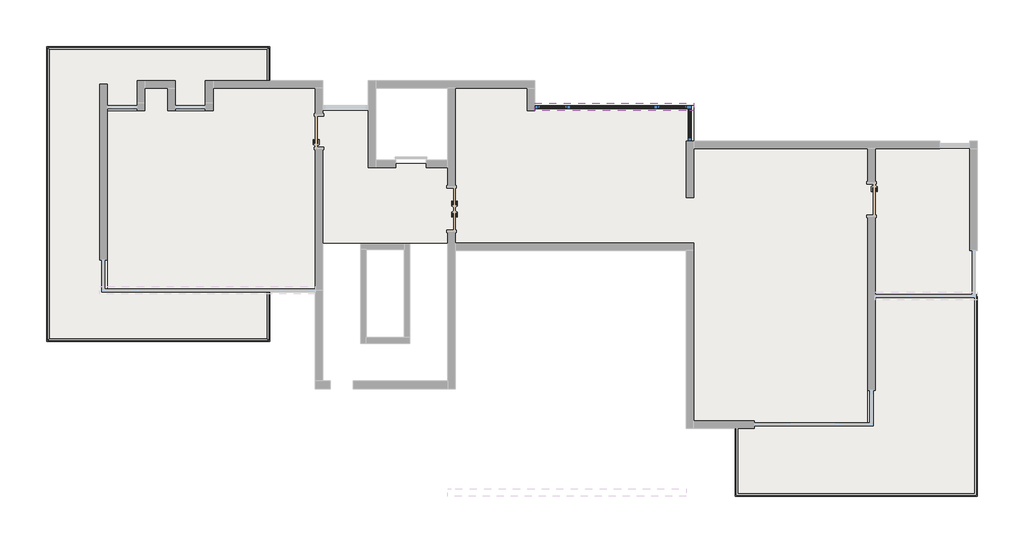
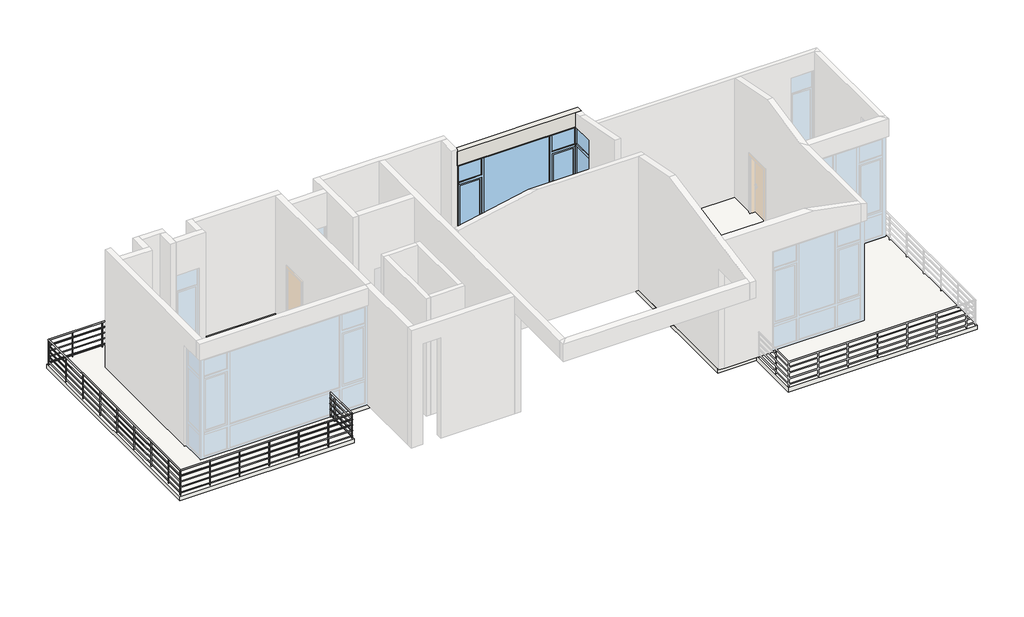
# One storey, part 2 of 3: 2 slabs, 1 railing, 1 wall, 1 window.
"""IFC4 building model written with IfcOpenShell, lengths in millimetres."""

from ifc_helpers import new_model, si_unit, point, frame, frame_2d, origin, place, context, project, spatial, circle_curve, ellipse_curve, trimmed, segment, composite_curve, outline, extrude, faceted_brep, transform, mapped, element, save
from ifc_brep_helpers import plane_surface, cylinder_surface, advanced_brep
from components import zjc_41_09_36_8a23be3f

model = new_model("IFC4")

# Units and contexts
model_context = context("Model", 3, world=origin())
ifc_project = project(units=[si_unit("LENGTHUNIT", "METRE", prefix="MILLI")], contexts=[model_context])

# Site, building, storey
site = spatial("IfcSite", under=ifc_project)
building = spatial("IfcBuilding", under=site)
storey = spatial("IfcBuildingStorey", under=building, Name="二层", Elevation=3900.0)

# Railing
placement = place(None, origin())
element("IfcRailing", 1, ObjectType="900mm 圆管", at=placement, inside=storey, context=model_context, shape_type="SolidModel", body=[
    advanced_brep(
    [(-3620.9475695, 1078.5827769, 4780.0), (-3660.9475695, 1078.5827769, 4780.0), (-3620.9475695, 1948.5827769, 4780.0), (-3660.9475695, 1908.5827769, 4780.0), (-9460.9475695, 1948.5827769, 4780.0), (-9420.9475695, 1908.5827769, 4780.0), (-9460.9475695, -5791.4172231, 4780.0), (-9420.9475695, -5751.4172231, 4780.0), (-3620.9475695, -5791.4172231, 4780.0), (-3660.9475695, -5751.4172231, 4780.0), (-3620.9475695, -4511.4172231, 4780.0), (-3660.9475695, -4511.4172231, 4780.0)],
    [
        (0, 1, circle_curve(frame((-3640.9475695, 1078.5827769, 4780.0), z_axis=(0.0, -1.0, 0.0), x_axis=(-1.0, 0.0, 0.0)), 20.0)),
        (1, 0, circle_curve(frame((-3640.9475695, 1078.5827769, 4780.0), z_axis=(0.0, -1.0, 0.0), x_axis=(-1.0, 0.0, 0.0)), 20.0)),
        (0, 2),
        (2, 3, ellipse_curve(frame((-3640.9475695, 1928.5827769, 4780.0), z_axis=(0.7071067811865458, -0.7071067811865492, 0.0), x_axis=(-0.7071067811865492, -0.7071067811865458, 0.0)), 28.2842712, 20.0)),
        (3, 1),
        (3, 2, ellipse_curve(frame((-3640.9475695, 1928.5827769, 4780.0), z_axis=(0.7071067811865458, -0.7071067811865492, 0.0), x_axis=(-0.7071067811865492, -0.7071067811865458, 0.0)), 28.2842712, 20.0)),
        (2, 4),
        (4, 5, ellipse_curve(frame((-9440.9475695, 1928.5827769, 4780.0), z_axis=(0.7071067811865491, 0.7071067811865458, 0.0), x_axis=(0.707106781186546, -0.7071067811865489, 0.0)), 28.2842712, 20.0)),
        (5, 3),
        (5, 4, ellipse_curve(frame((-9440.9475695, 1928.5827769, 4780.0), z_axis=(0.7071067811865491, 0.7071067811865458, 0.0), x_axis=(0.707106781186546, -0.7071067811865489, 0.0)), 28.2842712, 20.0)),
        (4, 6),
        (6, 7, ellipse_curve(frame((-9440.9475695, -5771.4172231, 4780.0), z_axis=(-0.7071067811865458, 0.7071067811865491, 0.0), x_axis=(0.7071067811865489, 0.707106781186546, 0.0)), 28.2842712, 20.0)),
        (7, 5),
        (7, 6, ellipse_curve(frame((-9440.9475695, -5771.4172231, 4780.0), z_axis=(-0.7071067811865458, 0.7071067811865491, 0.0), x_axis=(0.7071067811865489, 0.707106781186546, 0.0)), 28.2842712, 20.0)),
        (6, 8),
        (8, 9, ellipse_curve(frame((-3640.9475695, -5771.4172231, 4780.0), z_axis=(-0.7071067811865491, -0.7071067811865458, 0.0), x_axis=(-0.707106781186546, 0.7071067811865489, 0.0)), 28.2842712, 20.0)),
        (9, 7),
        (9, 8, ellipse_curve(frame((-3640.9475695, -5771.4172231, 4780.0), z_axis=(-0.7071067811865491, -0.7071067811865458, 0.0), x_axis=(-0.707106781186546, 0.7071067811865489, 0.0)), 28.2842712, 20.0)),
        (10, 11, circle_curve(frame((-3640.9475695, -4511.4172231, 4780.0), z_axis=(0.0, 1.0, 0.0), x_axis=(-1.0, 0.0, 0.0)), 20.0)),
        (11, 10, circle_curve(frame((-3640.9475695, -4511.4172231, 4780.0), z_axis=(0.0, 1.0, 0.0), x_axis=(-1.0, 0.0, 0.0)), 20.0)),
        (8, 10),
        (11, 9),
    ],
    [
        plane_surface(frame((-3640.9475695, 1078.5827769, 4800.0), z_axis=(0.0, -1.0, 0.0), x_axis=(0.0, 0.0, 1.0))),
        cylinder_surface(frame((-3640.9475695, 1078.5827769, 4780.0), z_axis=(0.0, -1.0, 0.0), x_axis=(-1.0, 0.0, 0.0)), 20.0),
        cylinder_surface(frame((-3640.9475695, 1928.5827769, 4780.0), z_axis=(1.0, 0.0, 0.0), x_axis=(0.0, -1.0, 0.0)), 20.0),
        cylinder_surface(frame((-9440.9475695, 1928.5827769, 4780.0), z_axis=(0.0, 1.0, 0.0), x_axis=(1.0, 0.0, 0.0)), 20.0),
        cylinder_surface(frame((-9440.9475695, -5771.4172231, 4780.0), z_axis=(-1.0, 0.0, 0.0), x_axis=(0.0, 1.0, 0.0)), 20.0),
        plane_surface(frame((-3640.9475695, -4511.4172231, 4800.0), z_axis=(0.0, 1.0, 0.0), x_axis=(0.0, 0.0, 1.0))),
        cylinder_surface(frame((-3640.9475695, -5771.4172231, 4780.0), z_axis=(0.0, -1.0, 0.0), x_axis=(-1.0, 0.0, 0.0)), 20.0),
    ],
    [
        (0, [[1, 2]]),
        (1, [[-1, 3, 4, 5]]),
        (1, [[-2, -5, 6, -3]]),
        (2, [[-4, 7, 8, 9]]),
        (2, [[-6, -9, 10, -7]]),
        (3, [[-8, 11, 12, 13]]),
        (3, [[-10, -13, 14, -11]]),
        (4, [[-12, 15, 16, 17]]),
        (4, [[-14, -17, 18, -15]]),
        (5, [[19, 20]]),
        (6, [[-16, 21, -20, 22]]),
        (6, [[-18, -22, -19, -21]]),
    ],
),
    advanced_brep(
    [(-3655.9475695, 1078.5827769, 4585.0), (-3625.9475695, 1078.5827769, 4585.0), (-3655.9475695, 1913.5827769, 4585.0), (-3625.9475695, 1943.5827769, 4585.0), (-9425.9475695, 1913.5827769, 4585.0), (-9455.9475695, 1943.5827769, 4585.0), (-9425.9475695, -5756.4172231, 4585.0), (-9455.9475695, -5786.4172231, 4585.0), (-3655.9475695, -5756.4172231, 4585.0), (-3625.9475695, -5786.4172231, 4585.0), (-3655.9475695, -4511.4172231, 4585.0), (-3625.9475695, -4511.4172231, 4585.0)],
    [
        (0, 1, circle_curve(frame((-3640.9475695, 1078.5827769, 4585.0), z_axis=(0.0, -1.0, 0.0), x_axis=(1.0, 0.0, 0.0)), 15.0)),
        (1, 0, circle_curve(frame((-3640.9475695, 1078.5827769, 4585.0), z_axis=(0.0, -1.0, 0.0), x_axis=(1.0, 0.0, 0.0)), 15.0)),
        (0, 2),
        (2, 3, ellipse_curve(frame((-3640.9475695, 1928.5827769, 4585.0), z_axis=(0.7071067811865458, -0.7071067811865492, 0.0), x_axis=(-0.7071067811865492, -0.7071067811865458, 0.0)), 21.2132034, 15.0)),
        (3, 1),
        (3, 2, ellipse_curve(frame((-3640.9475695, 1928.5827769, 4585.0), z_axis=(0.7071067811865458, -0.7071067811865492, 0.0), x_axis=(-0.7071067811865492, -0.7071067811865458, 0.0)), 21.2132034, 15.0)),
        (2, 4),
        (4, 5, ellipse_curve(frame((-9440.9475695, 1928.5827769, 4585.0), z_axis=(0.7071067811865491, 0.7071067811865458, 0.0), x_axis=(0.707106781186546, -0.7071067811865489, 0.0)), 21.2132034, 15.0)),
        (5, 3),
        (5, 4, ellipse_curve(frame((-9440.9475695, 1928.5827769, 4585.0), z_axis=(0.7071067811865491, 0.7071067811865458, 0.0), x_axis=(0.707106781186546, -0.7071067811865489, 0.0)), 21.2132034, 15.0)),
        (4, 6),
        (6, 7, ellipse_curve(frame((-9440.9475695, -5771.4172231, 4585.0), z_axis=(-0.7071067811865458, 0.7071067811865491, 0.0), x_axis=(0.7071067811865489, 0.707106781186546, 0.0)), 21.2132034, 15.0)),
        (7, 5),
        (7, 6, ellipse_curve(frame((-9440.9475695, -5771.4172231, 4585.0), z_axis=(-0.7071067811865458, 0.7071067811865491, 0.0), x_axis=(0.7071067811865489, 0.707106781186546, 0.0)), 21.2132034, 15.0)),
        (6, 8),
        (8, 9, ellipse_curve(frame((-3640.9475695, -5771.4172231, 4585.0), z_axis=(-0.7071067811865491, -0.7071067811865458, 0.0), x_axis=(-0.707106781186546, 0.7071067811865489, 0.0)), 21.2132034, 15.0)),
        (9, 7),
        (9, 8, ellipse_curve(frame((-3640.9475695, -5771.4172231, 4585.0), z_axis=(-0.7071067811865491, -0.7071067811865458, 0.0), x_axis=(-0.707106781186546, 0.7071067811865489, 0.0)), 21.2132034, 15.0)),
        (10, 11, circle_curve(frame((-3640.9475695, -4511.4172231, 4585.0), z_axis=(0.0, 1.0, 0.0), x_axis=(1.0, 0.0, 0.0)), 15.0)),
        (11, 10, circle_curve(frame((-3640.9475695, -4511.4172231, 4585.0), z_axis=(0.0, 1.0, 0.0), x_axis=(1.0, 0.0, 0.0)), 15.0)),
        (8, 10),
        (11, 9),
    ],
    [
        plane_surface(frame((-3640.9475695, 1078.5827769, 4600.0), z_axis=(0.0, -1.0, 0.0), x_axis=(0.0, 0.0, 1.0))),
        cylinder_surface(frame((-3640.9475695, 1078.5827769, 4585.0), z_axis=(0.0, -1.0, 0.0), x_axis=(1.0, 0.0, 0.0)), 15.0),
        cylinder_surface(frame((-3640.9475695, 1928.5827769, 4585.0), z_axis=(1.0, 0.0, 0.0), x_axis=(0.0, 1.0, 0.0)), 15.0),
        cylinder_surface(frame((-9440.9475695, 1928.5827769, 4585.0), z_axis=(0.0, 1.0, 0.0), x_axis=(-1.0, 0.0, 0.0)), 15.0),
        cylinder_surface(frame((-9440.9475695, -5771.4172231, 4585.0), z_axis=(-1.0, 0.0, 0.0), x_axis=(0.0, -1.0, 0.0)), 15.0),
        plane_surface(frame((-3640.9475695, -4511.4172231, 4600.0), z_axis=(0.0, 1.0, 0.0), x_axis=(0.0, 0.0, 1.0))),
        cylinder_surface(frame((-3640.9475695, -5771.4172231, 4585.0), z_axis=(0.0, -1.0, 0.0), x_axis=(1.0, 0.0, 0.0)), 15.0),
    ],
    [
        (0, [[1, 2]]),
        (1, [[-1, 3, 4, 5]]),
        (1, [[-2, -5, 6, -3]]),
        (2, [[-4, 7, 8, 9]]),
        (2, [[-6, -9, 10, -7]]),
        (3, [[-8, 11, 12, 13]]),
        (3, [[-10, -13, 14, -11]]),
        (4, [[-12, 15, 16, 17]]),
        (4, [[-14, -17, 18, -15]]),
        (5, [[19, 20]]),
        (6, [[-16, 21, -20, 22]]),
        (6, [[-18, -22, -19, -21]]),
    ],
),
    advanced_brep(
    [(-3655.9475695, 1078.5827769, 4385.0), (-3625.9475695, 1078.5827769, 4385.0), (-3655.9475695, 1913.5827769, 4385.0), (-3625.9475695, 1943.5827769, 4385.0), (-9425.9475695, 1913.5827769, 4385.0), (-9455.9475695, 1943.5827769, 4385.0), (-9425.9475695, -5756.4172231, 4385.0), (-9455.9475695, -5786.4172231, 4385.0), (-3655.9475695, -5756.4172231, 4385.0), (-3625.9475695, -5786.4172231, 4385.0), (-3655.9475695, -4511.4172231, 4385.0), (-3625.9475695, -4511.4172231, 4385.0)],
    [
        (0, 1, circle_curve(frame((-3640.9475695, 1078.5827769, 4385.0), z_axis=(0.0, -1.0, 0.0), x_axis=(1.0, 0.0, 0.0)), 15.0)),
        (1, 0, circle_curve(frame((-3640.9475695, 1078.5827769, 4385.0), z_axis=(0.0, -1.0, 0.0), x_axis=(1.0, 0.0, 0.0)), 15.0)),
        (0, 2),
        (2, 3, ellipse_curve(frame((-3640.9475695, 1928.5827769, 4385.0), z_axis=(0.7071067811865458, -0.7071067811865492, 0.0), x_axis=(-0.7071067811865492, -0.7071067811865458, 0.0)), 21.2132034, 15.0)),
        (3, 1),
        (3, 2, ellipse_curve(frame((-3640.9475695, 1928.5827769, 4385.0), z_axis=(0.7071067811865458, -0.7071067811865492, 0.0), x_axis=(-0.7071067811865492, -0.7071067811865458, 0.0)), 21.2132034, 15.0)),
        (2, 4),
        (4, 5, ellipse_curve(frame((-9440.9475695, 1928.5827769, 4385.0), z_axis=(0.7071067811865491, 0.7071067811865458, 0.0), x_axis=(0.707106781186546, -0.7071067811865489, 0.0)), 21.2132034, 15.0)),
        (5, 3),
        (5, 4, ellipse_curve(frame((-9440.9475695, 1928.5827769, 4385.0), z_axis=(0.7071067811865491, 0.7071067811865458, 0.0), x_axis=(0.707106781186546, -0.7071067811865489, 0.0)), 21.2132034, 15.0)),
        (4, 6),
        (6, 7, ellipse_curve(frame((-9440.9475695, -5771.4172231, 4385.0), z_axis=(-0.7071067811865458, 0.7071067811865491, 0.0), x_axis=(0.7071067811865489, 0.707106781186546, 0.0)), 21.2132034, 15.0)),
        (7, 5),
        (7, 6, ellipse_curve(frame((-9440.9475695, -5771.4172231, 4385.0), z_axis=(-0.7071067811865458, 0.7071067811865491, 0.0), x_axis=(0.7071067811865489, 0.707106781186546, 0.0)), 21.2132034, 15.0)),
        (6, 8),
        (8, 9, ellipse_curve(frame((-3640.9475695, -5771.4172231, 4385.0), z_axis=(-0.7071067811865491, -0.7071067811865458, 0.0), x_axis=(-0.707106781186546, 0.7071067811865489, 0.0)), 21.2132034, 15.0)),
        (9, 7),
        (9, 8, ellipse_curve(frame((-3640.9475695, -5771.4172231, 4385.0), z_axis=(-0.7071067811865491, -0.7071067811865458, 0.0), x_axis=(-0.707106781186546, 0.7071067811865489, 0.0)), 21.2132034, 15.0)),
        (10, 11, circle_curve(frame((-3640.9475695, -4511.4172231, 4385.0), z_axis=(0.0, 1.0, 0.0), x_axis=(1.0, 0.0, 0.0)), 15.0)),
        (11, 10, circle_curve(frame((-3640.9475695, -4511.4172231, 4385.0), z_axis=(0.0, 1.0, 0.0), x_axis=(1.0, 0.0, 0.0)), 15.0)),
        (8, 10),
        (11, 9),
    ],
    [
        plane_surface(frame((-3640.9475695, 1078.5827769, 4400.0), z_axis=(0.0, -1.0, 0.0), x_axis=(0.0, 0.0, 1.0))),
        cylinder_surface(frame((-3640.9475695, 1078.5827769, 4385.0), z_axis=(0.0, -1.0, 0.0), x_axis=(1.0, 0.0, 0.0)), 15.0),
        cylinder_surface(frame((-3640.9475695, 1928.5827769, 4385.0), z_axis=(1.0, 0.0, 0.0), x_axis=(0.0, 1.0, 0.0)), 15.0),
        cylinder_surface(frame((-9440.9475695, 1928.5827769, 4385.0), z_axis=(0.0, 1.0, 0.0), x_axis=(-1.0, 0.0, 0.0)), 15.0),
        cylinder_surface(frame((-9440.9475695, -5771.4172231, 4385.0), z_axis=(-1.0, 0.0, 0.0), x_axis=(0.0, -1.0, 0.0)), 15.0),
        plane_surface(frame((-3640.9475695, -4511.4172231, 4400.0), z_axis=(0.0, 1.0, 0.0), x_axis=(0.0, 0.0, 1.0))),
        cylinder_surface(frame((-3640.9475695, -5771.4172231, 4385.0), z_axis=(0.0, -1.0, 0.0), x_axis=(1.0, 0.0, 0.0)), 15.0),
    ],
    [
        (0, [[1, 2]]),
        (1, [[-1, 3, 4, 5]]),
        (1, [[-2, -5, 6, -3]]),
        (2, [[-4, 7, 8, 9]]),
        (2, [[-6, -9, 10, -7]]),
        (3, [[-8, 11, 12, 13]]),
        (3, [[-10, -13, 14, -11]]),
        (4, [[-12, 15, 16, 17]]),
        (4, [[-14, -17, 18, -15]]),
        (5, [[19, 20]]),
        (6, [[-16, 21, -20, 22]]),
        (6, [[-18, -22, -19, -21]]),
    ],
),
    advanced_brep(
    [(-3655.9475695, 1078.5827769, 4185.0), (-3625.9475695, 1078.5827769, 4185.0), (-3655.9475695, 1913.5827769, 4185.0), (-3625.9475695, 1943.5827769, 4185.0), (-9425.9475695, 1913.5827769, 4185.0), (-9455.9475695, 1943.5827769, 4185.0), (-9425.9475695, -5756.4172231, 4185.0), (-9455.9475695, -5786.4172231, 4185.0), (-3655.9475695, -5756.4172231, 4185.0), (-3625.9475695, -5786.4172231, 4185.0), (-3655.9475695, -4511.4172231, 4185.0), (-3625.9475695, -4511.4172231, 4185.0)],
    [
        (0, 1, circle_curve(frame((-3640.9475695, 1078.5827769, 4185.0), z_axis=(0.0, -1.0, 0.0), x_axis=(1.0, 0.0, 0.0)), 15.0)),
        (1, 0, circle_curve(frame((-3640.9475695, 1078.5827769, 4185.0), z_axis=(0.0, -1.0, 0.0), x_axis=(1.0, 0.0, 0.0)), 15.0)),
        (0, 2),
        (2, 3, ellipse_curve(frame((-3640.9475695, 1928.5827769, 4185.0), z_axis=(0.7071067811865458, -0.7071067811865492, 0.0), x_axis=(-0.7071067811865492, -0.7071067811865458, 0.0)), 21.2132034, 15.0)),
        (3, 1),
        (3, 2, ellipse_curve(frame((-3640.9475695, 1928.5827769, 4185.0), z_axis=(0.7071067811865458, -0.7071067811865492, 0.0), x_axis=(-0.7071067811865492, -0.7071067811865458, 0.0)), 21.2132034, 15.0)),
        (2, 4),
        (4, 5, ellipse_curve(frame((-9440.9475695, 1928.5827769, 4185.0), z_axis=(0.7071067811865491, 0.7071067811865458, 0.0), x_axis=(0.707106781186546, -0.7071067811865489, 0.0)), 21.2132034, 15.0)),
        (5, 3),
        (5, 4, ellipse_curve(frame((-9440.9475695, 1928.5827769, 4185.0), z_axis=(0.7071067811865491, 0.7071067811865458, 0.0), x_axis=(0.707106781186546, -0.7071067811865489, 0.0)), 21.2132034, 15.0)),
        (4, 6),
        (6, 7, ellipse_curve(frame((-9440.9475695, -5771.4172231, 4185.0), z_axis=(-0.7071067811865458, 0.7071067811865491, 0.0), x_axis=(0.7071067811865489, 0.707106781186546, 0.0)), 21.2132034, 15.0)),
        (7, 5),
        (7, 6, ellipse_curve(frame((-9440.9475695, -5771.4172231, 4185.0), z_axis=(-0.7071067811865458, 0.7071067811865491, 0.0), x_axis=(0.7071067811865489, 0.707106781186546, 0.0)), 21.2132034, 15.0)),
        (6, 8),
        (8, 9, ellipse_curve(frame((-3640.9475695, -5771.4172231, 4185.0), z_axis=(-0.7071067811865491, -0.7071067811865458, 0.0), x_axis=(-0.707106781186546, 0.7071067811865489, 0.0)), 21.2132034, 15.0)),
        (9, 7),
        (9, 8, ellipse_curve(frame((-3640.9475695, -5771.4172231, 4185.0), z_axis=(-0.7071067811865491, -0.7071067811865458, 0.0), x_axis=(-0.707106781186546, 0.7071067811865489, 0.0)), 21.2132034, 15.0)),
        (10, 11, circle_curve(frame((-3640.9475695, -4511.4172231, 4185.0), z_axis=(0.0, 1.0, 0.0), x_axis=(1.0, 0.0, 0.0)), 15.0)),
        (11, 10, circle_curve(frame((-3640.9475695, -4511.4172231, 4185.0), z_axis=(0.0, 1.0, 0.0), x_axis=(1.0, 0.0, 0.0)), 15.0)),
        (8, 10),
        (11, 9),
    ],
    [
        plane_surface(frame((-3640.9475695, 1078.5827769, 4200.0), z_axis=(0.0, -1.0, 0.0), x_axis=(0.0, 0.0, 1.0))),
        cylinder_surface(frame((-3640.9475695, 1078.5827769, 4185.0), z_axis=(0.0, -1.0, 0.0), x_axis=(1.0, 0.0, 0.0)), 15.0),
        cylinder_surface(frame((-3640.9475695, 1928.5827769, 4185.0), z_axis=(1.0, 0.0, 0.0), x_axis=(0.0, 1.0, 0.0)), 15.0),
        cylinder_surface(frame((-9440.9475695, 1928.5827769, 4185.0), z_axis=(0.0, 1.0, 0.0), x_axis=(-1.0, 0.0, 0.0)), 15.0),
        cylinder_surface(frame((-9440.9475695, -5771.4172231, 4185.0), z_axis=(-1.0, 0.0, 0.0), x_axis=(0.0, -1.0, 0.0)), 15.0),
        plane_surface(frame((-3640.9475695, -4511.4172231, 4200.0), z_axis=(0.0, 1.0, 0.0), x_axis=(0.0, 0.0, 1.0))),
        cylinder_surface(frame((-3640.9475695, -5771.4172231, 4185.0), z_axis=(0.0, -1.0, 0.0), x_axis=(1.0, 0.0, 0.0)), 15.0),
    ],
    [
        (0, [[1, 2]]),
        (1, [[-1, 3, 4, 5]]),
        (1, [[-2, -5, 6, -3]]),
        (2, [[-4, 7, 8, 9]]),
        (2, [[-6, -9, 10, -7]]),
        (3, [[-8, 11, 12, 13]]),
        (3, [[-10, -13, 14, -11]]),
        (4, [[-12, 15, 16, 17]]),
        (4, [[-14, -17, 18, -15]]),
        (5, [[19, 20]]),
        (6, [[-16, 21, -20, 22]]),
        (6, [[-18, -22, -19, -21]]),
    ],
),
    advanced_brep(
    [(-3655.9475695, 1078.5827769, 3985.0), (-3625.9475695, 1078.5827769, 3985.0), (-3655.9475695, 1913.5827769, 3985.0), (-3625.9475695, 1943.5827769, 3985.0), (-9425.9475695, 1913.5827769, 3985.0), (-9455.9475695, 1943.5827769, 3985.0), (-9425.9475695, -5756.4172231, 3985.0), (-9455.9475695, -5786.4172231, 3985.0), (-3655.9475695, -5756.4172231, 3985.0), (-3625.9475695, -5786.4172231, 3985.0), (-3655.9475695, -4511.4172231, 3985.0), (-3625.9475695, -4511.4172231, 3985.0)],
    [
        (0, 1, circle_curve(frame((-3640.9475695, 1078.5827769, 3985.0), z_axis=(0.0, -1.0, 0.0), x_axis=(1.0, 0.0, 0.0)), 15.0)),
        (1, 0, circle_curve(frame((-3640.9475695, 1078.5827769, 3985.0), z_axis=(0.0, -1.0, 0.0), x_axis=(1.0, 0.0, 0.0)), 15.0)),
        (0, 2),
        (2, 3, ellipse_curve(frame((-3640.9475695, 1928.5827769, 3985.0), z_axis=(0.7071067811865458, -0.7071067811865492, 0.0), x_axis=(-0.7071067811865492, -0.7071067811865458, 0.0)), 21.2132034, 15.0)),
        (3, 1),
        (3, 2, ellipse_curve(frame((-3640.9475695, 1928.5827769, 3985.0), z_axis=(0.7071067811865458, -0.7071067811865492, 0.0), x_axis=(-0.7071067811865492, -0.7071067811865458, 0.0)), 21.2132034, 15.0)),
        (2, 4),
        (4, 5, ellipse_curve(frame((-9440.9475695, 1928.5827769, 3985.0), z_axis=(0.7071067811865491, 0.7071067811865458, 0.0), x_axis=(0.707106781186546, -0.7071067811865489, 0.0)), 21.2132034, 15.0)),
        (5, 3),
        (5, 4, ellipse_curve(frame((-9440.9475695, 1928.5827769, 3985.0), z_axis=(0.7071067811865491, 0.7071067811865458, 0.0), x_axis=(0.707106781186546, -0.7071067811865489, 0.0)), 21.2132034, 15.0)),
        (4, 6),
        (6, 7, ellipse_curve(frame((-9440.9475695, -5771.4172231, 3985.0), z_axis=(-0.7071067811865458, 0.7071067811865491, 0.0), x_axis=(0.7071067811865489, 0.707106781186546, 0.0)), 21.2132034, 15.0)),
        (7, 5),
        (7, 6, ellipse_curve(frame((-9440.9475695, -5771.4172231, 3985.0), z_axis=(-0.7071067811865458, 0.7071067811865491, 0.0), x_axis=(0.7071067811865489, 0.707106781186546, 0.0)), 21.2132034, 15.0)),
        (6, 8),
        (8, 9, ellipse_curve(frame((-3640.9475695, -5771.4172231, 3985.0), z_axis=(-0.7071067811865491, -0.7071067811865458, 0.0), x_axis=(-0.707106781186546, 0.7071067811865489, 0.0)), 21.2132034, 15.0)),
        (9, 7),
        (9, 8, ellipse_curve(frame((-3640.9475695, -5771.4172231, 3985.0), z_axis=(-0.7071067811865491, -0.7071067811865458, 0.0), x_axis=(-0.707106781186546, 0.7071067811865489, 0.0)), 21.2132034, 15.0)),
        (10, 11, circle_curve(frame((-3640.9475695, -4511.4172231, 3985.0), z_axis=(0.0, 1.0, 0.0), x_axis=(1.0, 0.0, 0.0)), 15.0)),
        (11, 10, circle_curve(frame((-3640.9475695, -4511.4172231, 3985.0), z_axis=(0.0, 1.0, 0.0), x_axis=(1.0, 0.0, 0.0)), 15.0)),
        (8, 10),
        (11, 9),
    ],
    [
        plane_surface(frame((-3640.9475695, 1078.5827769, 4000.0), z_axis=(0.0, -1.0, 0.0), x_axis=(0.0, 0.0, 1.0))),
        cylinder_surface(frame((-3640.9475695, 1078.5827769, 3985.0), z_axis=(0.0, -1.0, 0.0), x_axis=(1.0, 0.0, 0.0)), 15.0),
        cylinder_surface(frame((-3640.9475695, 1928.5827769, 3985.0), z_axis=(1.0, 0.0, 0.0), x_axis=(0.0, 1.0, 0.0)), 15.0),
        cylinder_surface(frame((-9440.9475695, 1928.5827769, 3985.0), z_axis=(0.0, 1.0, 0.0), x_axis=(-1.0, 0.0, 0.0)), 15.0),
        cylinder_surface(frame((-9440.9475695, -5771.4172231, 3985.0), z_axis=(-1.0, 0.0, 0.0), x_axis=(0.0, -1.0, 0.0)), 15.0),
        plane_surface(frame((-3640.9475695, -4511.4172231, 4000.0), z_axis=(0.0, 1.0, 0.0), x_axis=(0.0, 0.0, 1.0))),
        cylinder_surface(frame((-3640.9475695, -5771.4172231, 3985.0), z_axis=(0.0, -1.0, 0.0), x_axis=(1.0, 0.0, 0.0)), 15.0),
    ],
    [
        (0, [[1, 2]]),
        (1, [[-1, 3, 4, 5]]),
        (1, [[-2, -5, 6, -3]]),
        (2, [[-4, 7, 8, 9]]),
        (2, [[-6, -9, 10, -7]]),
        (3, [[-8, 11, 12, 13]]),
        (3, [[-10, -13, 14, -11]]),
        (4, [[-12, 15, 16, 17]]),
        (4, [[-14, -17, 18, -15]]),
        (5, [[19, 20]]),
        (6, [[-16, 21, -20, 22]]),
        (6, [[-18, -22, -19, -21]]),
    ],
),
    extrude(outline(composite_curve([segment(trimmed(circle_curve(frame_2d((-3640.9475695, -4771.4172231)), 12.5), [point((-3653.4475695, -4771.4172231))], [point((-3628.4475695, -4771.4172231))], False, "CARTESIAN"), True, "CONTINUOUS"), segment(trimmed(circle_curve(frame_2d((-3640.9475695, -4771.4172231)), 12.5), [point((-3628.4475695, -4771.4172231))], [point((-3653.4475695, -4771.4172231))], False, "CARTESIAN"), True, "CONTINUOUS")], self_intersect=False)), frame((0.0, 0.0, 3900.0), z_axis=(0.0, 0.0, 1.0), x_axis=(1.0, 0.0, 0.0)), (0.0, 0.0, 1.0), 860.0),
    extrude(outline(composite_curve([segment(trimmed(circle_curve(frame_2d((-4440.9475695, -5771.4172231)), 12.5), [point((-4440.9475695, -5758.9172231))], [point((-4440.9475695, -5783.9172231))], False, "CARTESIAN"), True, "CONTINUOUS"), segment(trimmed(circle_curve(frame_2d((-4440.9475695, -5771.4172231)), 12.5), [point((-4440.9475695, -5783.9172231))], [point((-4440.9475695, -5758.9172231))], False, "CARTESIAN"), True, "CONTINUOUS")], self_intersect=False)), frame((0.0, 0.0, 3900.0), z_axis=(0.0, 0.0, 1.0), x_axis=(1.0, 0.0, 0.0)), (0.0, 0.0, 1.0), 860.0),
    extrude(outline(composite_curve([segment(trimmed(circle_curve(frame_2d((-5440.9475695, -5771.4172231)), 12.5), [point((-5440.9475695, -5758.9172231))], [point((-5440.9475695, -5783.9172231))], False, "CARTESIAN"), True, "CONTINUOUS"), segment(trimmed(circle_curve(frame_2d((-5440.9475695, -5771.4172231)), 12.5), [point((-5440.9475695, -5783.9172231))], [point((-5440.9475695, -5758.9172231))], False, "CARTESIAN"), True, "CONTINUOUS")], self_intersect=False)), frame((0.0, 0.0, 3900.0), z_axis=(0.0, 0.0, 1.0), x_axis=(1.0, 0.0, 0.0)), (0.0, 0.0, 1.0), 860.0),
    extrude(outline(composite_curve([segment(trimmed(circle_curve(frame_2d((-6440.9475695, -5771.4172231)), 12.5), [point((-6440.9475695, -5758.9172231))], [point((-6440.9475695, -5783.9172231))], False, "CARTESIAN"), True, "CONTINUOUS"), segment(trimmed(circle_curve(frame_2d((-6440.9475695, -5771.4172231)), 12.5), [point((-6440.9475695, -5783.9172231))], [point((-6440.9475695, -5758.9172231))], False, "CARTESIAN"), True, "CONTINUOUS")], self_intersect=False)), frame((0.0, 0.0, 3900.0), z_axis=(0.0, 0.0, 1.0), x_axis=(1.0, 0.0, 0.0)), (0.0, 0.0, 1.0), 860.0),
    extrude(outline(composite_curve([segment(trimmed(circle_curve(frame_2d((-7440.9475695, -5771.4172231)), 12.5), [point((-7440.9475695, -5758.9172231))], [point((-7440.9475695, -5783.9172231))], False, "CARTESIAN"), True, "CONTINUOUS"), segment(trimmed(circle_curve(frame_2d((-7440.9475695, -5771.4172231)), 12.5), [point((-7440.9475695, -5783.9172231))], [point((-7440.9475695, -5758.9172231))], False, "CARTESIAN"), True, "CONTINUOUS")], self_intersect=False)), frame((0.0, 0.0, 3900.0), z_axis=(0.0, 0.0, 1.0), x_axis=(1.0, 0.0, 0.0)), (0.0, 0.0, 1.0), 860.0),
    extrude(outline(composite_curve([segment(trimmed(circle_curve(frame_2d((-8440.9475695, -5771.4172231)), 12.5), [point((-8440.9475695, -5758.9172231))], [point((-8440.9475695, -5783.9172231))], False, "CARTESIAN"), True, "CONTINUOUS"), segment(trimmed(circle_curve(frame_2d((-8440.9475695, -5771.4172231)), 12.5), [point((-8440.9475695, -5783.9172231))], [point((-8440.9475695, -5758.9172231))], False, "CARTESIAN"), True, "CONTINUOUS")], self_intersect=False)), frame((0.0, 0.0, 3900.0), z_axis=(0.0, 0.0, 1.0), x_axis=(1.0, 0.0, 0.0)), (0.0, 0.0, 1.0), 860.0),
    extrude(outline(composite_curve([segment(trimmed(circle_curve(frame_2d((-9440.9475695, -5071.4172231)), 12.5), [point((-9428.4475695, -5071.4172231))], [point((-9453.4475695, -5071.4172231))], False, "CARTESIAN"), True, "CONTINUOUS"), segment(trimmed(circle_curve(frame_2d((-9440.9475695, -5071.4172231)), 12.5), [point((-9453.4475695, -5071.4172231))], [point((-9428.4475695, -5071.4172231))], False, "CARTESIAN"), True, "CONTINUOUS")], self_intersect=False)), frame((0.0, 0.0, 3900.0), z_axis=(0.0, 0.0, 1.0), x_axis=(1.0, 0.0, 0.0)), (0.0, 0.0, 1.0), 860.0),
    extrude(outline(composite_curve([segment(trimmed(circle_curve(frame_2d((-9440.9475695, -4071.4172231)), 12.5), [point((-9428.4475695, -4071.4172231))], [point((-9453.4475695, -4071.4172231))], False, "CARTESIAN"), True, "CONTINUOUS"), segment(trimmed(circle_curve(frame_2d((-9440.9475695, -4071.4172231)), 12.5), [point((-9453.4475695, -4071.4172231))], [point((-9428.4475695, -4071.4172231))], False, "CARTESIAN"), True, "CONTINUOUS")], self_intersect=False)), frame((0.0, 0.0, 3900.0), z_axis=(0.0, 0.0, 1.0), x_axis=(1.0, 0.0, 0.0)), (0.0, 0.0, 1.0), 860.0),
    extrude(outline(composite_curve([segment(trimmed(circle_curve(frame_2d((-9440.9475695, -3071.4172231)), 12.5), [point((-9428.4475695, -3071.4172231))], [point((-9453.4475695, -3071.4172231))], False, "CARTESIAN"), True, "CONTINUOUS"), segment(trimmed(circle_curve(frame_2d((-9440.9475695, -3071.4172231)), 12.5), [point((-9453.4475695, -3071.4172231))], [point((-9428.4475695, -3071.4172231))], False, "CARTESIAN"), True, "CONTINUOUS")], self_intersect=False)), frame((0.0, 0.0, 3900.0), z_axis=(0.0, 0.0, 1.0), x_axis=(1.0, 0.0, 0.0)), (0.0, 0.0, 1.0), 860.0),
    extrude(outline(composite_curve([segment(trimmed(circle_curve(frame_2d((-9440.9475695, -2071.4172231)), 12.5), [point((-9428.4475695, -2071.4172231))], [point((-9453.4475695, -2071.4172231))], False, "CARTESIAN"), True, "CONTINUOUS"), segment(trimmed(circle_curve(frame_2d((-9440.9475695, -2071.4172231)), 12.5), [point((-9453.4475695, -2071.4172231))], [point((-9428.4475695, -2071.4172231))], False, "CARTESIAN"), True, "CONTINUOUS")], self_intersect=False)), frame((0.0, 0.0, 3900.0), z_axis=(0.0, 0.0, 1.0), x_axis=(1.0, 0.0, 0.0)), (0.0, 0.0, 1.0), 860.0),
    extrude(outline(composite_curve([segment(trimmed(circle_curve(frame_2d((-9440.9475695, -1071.4172231)), 12.5), [point((-9428.4475695, -1071.4172231))], [point((-9453.4475695, -1071.4172231))], False, "CARTESIAN"), True, "CONTINUOUS"), segment(trimmed(circle_curve(frame_2d((-9440.9475695, -1071.4172231)), 12.5), [point((-9453.4475695, -1071.4172231))], [point((-9428.4475695, -1071.4172231))], False, "CARTESIAN"), True, "CONTINUOUS")], self_intersect=False)), frame((0.0, 0.0, 3900.0), z_axis=(0.0, 0.0, 1.0), x_axis=(1.0, 0.0, 0.0)), (0.0, 0.0, 1.0), 860.0),
    extrude(outline(composite_curve([segment(trimmed(circle_curve(frame_2d((-9440.9475695, -71.4172231)), 12.5), [point((-9428.4475695, -71.4172231))], [point((-9453.4475695, -71.4172231))], False, "CARTESIAN"), True, "CONTINUOUS"), segment(trimmed(circle_curve(frame_2d((-9440.9475695, -71.4172231)), 12.5), [point((-9453.4475695, -71.4172231))], [point((-9428.4475695, -71.4172231))], False, "CARTESIAN"), True, "CONTINUOUS")], self_intersect=False)), frame((0.0, 0.0, 3900.0), z_axis=(0.0, 0.0, 1.0), x_axis=(1.0, 0.0, 0.0)), (0.0, 0.0, 1.0), 860.0),
    extrude(outline(composite_curve([segment(trimmed(circle_curve(frame_2d((-9440.9475695, 928.5827769)), 12.5), [point((-9428.4475695, 928.5827769))], [point((-9453.4475695, 928.5827769))], False, "CARTESIAN"), True, "CONTINUOUS"), segment(trimmed(circle_curve(frame_2d((-9440.9475695, 928.5827769)), 12.5), [point((-9453.4475695, 928.5827769))], [point((-9428.4475695, 928.5827769))], False, "CARTESIAN"), True, "CONTINUOUS")], self_intersect=False)), frame((0.0, 0.0, 3900.0), z_axis=(0.0, 0.0, 1.0), x_axis=(1.0, 0.0, 0.0)), (0.0, 0.0, 1.0), 860.0),
    extrude(outline(composite_curve([segment(trimmed(circle_curve(frame_2d((-8640.9475695, 1928.5827769)), 12.5), [point((-8640.9475695, 1916.0827769))], [point((-8640.9475695, 1941.0827769))], False, "CARTESIAN"), True, "CONTINUOUS"), segment(trimmed(circle_curve(frame_2d((-8640.9475695, 1928.5827769)), 12.5), [point((-8640.9475695, 1941.0827769))], [point((-8640.9475695, 1916.0827769))], False, "CARTESIAN"), True, "CONTINUOUS")], self_intersect=False)), frame((0.0, 0.0, 3900.0), z_axis=(0.0, 0.0, 1.0), x_axis=(1.0, 0.0, 0.0)), (0.0, 0.0, 1.0), 860.0),
    extrude(outline(composite_curve([segment(trimmed(circle_curve(frame_2d((-7640.9475695, 1928.5827769)), 12.5), [point((-7640.9475695, 1916.0827769))], [point((-7640.9475695, 1941.0827769))], False, "CARTESIAN"), True, "CONTINUOUS"), segment(trimmed(circle_curve(frame_2d((-7640.9475695, 1928.5827769)), 12.5), [point((-7640.9475695, 1941.0827769))], [point((-7640.9475695, 1916.0827769))], False, "CARTESIAN"), True, "CONTINUOUS")], self_intersect=False)), frame((0.0, 0.0, 3900.0), z_axis=(0.0, 0.0, 1.0), x_axis=(1.0, 0.0, 0.0)), (0.0, 0.0, 1.0), 860.0),
    extrude(outline(composite_curve([segment(trimmed(circle_curve(frame_2d((-6640.9475695, 1928.5827769)), 12.5), [point((-6640.9475695, 1916.0827769))], [point((-6640.9475695, 1941.0827769))], False, "CARTESIAN"), True, "CONTINUOUS"), segment(trimmed(circle_curve(frame_2d((-6640.9475695, 1928.5827769)), 12.5), [point((-6640.9475695, 1941.0827769))], [point((-6640.9475695, 1916.0827769))], False, "CARTESIAN"), True, "CONTINUOUS")], self_intersect=False)), frame((0.0, 0.0, 3900.0), z_axis=(0.0, 0.0, 1.0), x_axis=(1.0, 0.0, 0.0)), (0.0, 0.0, 1.0), 860.0),
    extrude(outline(composite_curve([segment(trimmed(circle_curve(frame_2d((-5640.9475695, 1928.5827769)), 12.5), [point((-5640.9475695, 1916.0827769))], [point((-5640.9475695, 1941.0827769))], False, "CARTESIAN"), True, "CONTINUOUS"), segment(trimmed(circle_curve(frame_2d((-5640.9475695, 1928.5827769)), 12.5), [point((-5640.9475695, 1941.0827769))], [point((-5640.9475695, 1916.0827769))], False, "CARTESIAN"), True, "CONTINUOUS")], self_intersect=False)), frame((0.0, 0.0, 3900.0), z_axis=(0.0, 0.0, 1.0), x_axis=(1.0, 0.0, 0.0)), (0.0, 0.0, 1.0), 860.0),
    extrude(outline(composite_curve([segment(trimmed(circle_curve(frame_2d((-4640.9475695, 1928.5827769)), 12.5), [point((-4640.9475695, 1916.0827769))], [point((-4640.9475695, 1941.0827769))], False, "CARTESIAN"), True, "CONTINUOUS"), segment(trimmed(circle_curve(frame_2d((-4640.9475695, 1928.5827769)), 12.5), [point((-4640.9475695, 1941.0827769))], [point((-4640.9475695, 1916.0827769))], False, "CARTESIAN"), True, "CONTINUOUS")], self_intersect=False)), frame((0.0, 0.0, 3900.0), z_axis=(0.0, 0.0, 1.0), x_axis=(1.0, 0.0, 0.0)), (0.0, 0.0, 1.0), 860.0),
    extrude(outline(composite_curve([segment(trimmed(circle_curve(frame_2d((-3640.9475695, -5771.4172231)), 12.5), [point((-3640.9475695, -5758.9172231))], [point((-3640.9475695, -5783.9172231))], False, "CARTESIAN"), True, "CONTINUOUS"), segment(trimmed(circle_curve(frame_2d((-3640.9475695, -5771.4172231)), 12.5), [point((-3640.9475695, -5783.9172231))], [point((-3640.9475695, -5758.9172231))], False, "CARTESIAN"), True, "CONTINUOUS")], self_intersect=False)), frame((0.0, 0.0, 3900.0), z_axis=(0.0, 0.0, 1.0), x_axis=(1.0, 0.0, 0.0)), (0.0, 0.0, 1.0), 860.0),
    extrude(outline(composite_curve([segment(trimmed(circle_curve(frame_2d((-9440.9475695, -5771.4172231)), 12.5), [point((-9428.4475695, -5771.4172231))], [point((-9453.4475695, -5771.4172231))], False, "CARTESIAN"), True, "CONTINUOUS"), segment(trimmed(circle_curve(frame_2d((-9440.9475695, -5771.4172231)), 12.5), [point((-9453.4475695, -5771.4172231))], [point((-9428.4475695, -5771.4172231))], False, "CARTESIAN"), True, "CONTINUOUS")], self_intersect=False)), frame((0.0, 0.0, 3900.0), z_axis=(0.0, 0.0, 1.0), x_axis=(1.0, 0.0, 0.0)), (0.0, 0.0, 1.0), 860.0),
    extrude(outline(composite_curve([segment(trimmed(circle_curve(frame_2d((-9440.9475695, 1928.5827769)), 12.5), [point((-9440.9475695, 1916.0827769))], [point((-9440.9475695, 1941.0827769))], False, "CARTESIAN"), True, "CONTINUOUS"), segment(trimmed(circle_curve(frame_2d((-9440.9475695, 1928.5827769)), 12.5), [point((-9440.9475695, 1941.0827769))], [point((-9440.9475695, 1916.0827769))], False, "CARTESIAN"), True, "CONTINUOUS")], self_intersect=False)), frame((0.0, 0.0, 3900.0), z_axis=(0.0, 0.0, 1.0), x_axis=(1.0, 0.0, 0.0)), (0.0, 0.0, 1.0), 860.0),
    extrude(outline(composite_curve([segment(trimmed(circle_curve(frame_2d((-3640.9475695, 1928.5827769)), 12.5), [point((-3653.4475695, 1928.5827769))], [point((-3628.4475695, 1928.5827769))], False, "CARTESIAN"), True, "CONTINUOUS"), segment(trimmed(circle_curve(frame_2d((-3640.9475695, 1928.5827769)), 12.5), [point((-3628.4475695, 1928.5827769))], [point((-3653.4475695, 1928.5827769))], False, "CARTESIAN"), True, "CONTINUOUS")], self_intersect=False)), frame((0.0, 0.0, 3900.0), z_axis=(0.0, 0.0, 1.0), x_axis=(1.0, 0.0, 0.0)), (0.0, 0.0, 1.0), 860.0),
    extrude(outline(composite_curve([segment(trimmed(circle_curve(frame_2d((-3640.9475695, -4523.9172231)), 12.5), [point((-3653.4475695, -4523.9172231))], [point((-3628.4475695, -4523.9172231))], False, "CARTESIAN"), True, "CONTINUOUS"), segment(trimmed(circle_curve(frame_2d((-3640.9475695, -4523.9172231)), 12.5), [point((-3628.4475695, -4523.9172231))], [point((-3653.4475695, -4523.9172231))], False, "CARTESIAN"), True, "CONTINUOUS")], self_intersect=False)), frame((0.0, 0.0, 3900.0), z_axis=(0.0, 0.0, 1.0), x_axis=(1.0, 0.0, 0.0)), (0.0, 0.0, 1.0), 860.0),
    extrude(outline(composite_curve([segment(trimmed(circle_curve(frame_2d((-3640.9475695, 1091.0827769)), 12.5), [point((-3653.4475695, 1091.0827769))], [point((-3628.4475695, 1091.0827769))], False, "CARTESIAN"), True, "CONTINUOUS"), segment(trimmed(circle_curve(frame_2d((-3640.9475695, 1091.0827769)), 12.5), [point((-3628.4475695, 1091.0827769))], [point((-3653.4475695, 1091.0827769))], False, "CARTESIAN"), True, "CONTINUOUS")], self_intersect=False)), frame((0.0, 0.0, 3900.0), z_axis=(0.0, 0.0, 1.0), x_axis=(1.0, 0.0, 0.0)), (0.0, 0.0, 1.0), 860.0),
])

# Slabs
element("IfcSlab", 2, ObjectType="楼板", at=placement, inside=storey, context=model_context, shape_type="Brep", body=[
    faceted_brep([(-8030.9475695, 278.5827769, 3750.0), (-7890.9475695, 278.5827769, 3750.0), (-6890.9475695, 278.5827769, 3750.0), (-6890.9475695, 878.5827769, 3750.0), (-6290.9475695, 878.5827769, 3750.0), (-6290.9475695, 278.5827769, 3750.0), (-5090.9475695, 278.5827769, 3750.0), (-5090.9475695, 878.5827769, 3750.0), (-2390.9475695, 878.5827769, 3750.0), (-2390.9475695, 278.5827769, 3750.0), (-2190.9475695, 278.5827769, 3750.0), (-990.9475695, 278.5827769, 3750.0), (-790.9475695, 278.5827769, 3750.0), (-790.9475695, -1121.4172231, 3750.0), (1109.0524305, -1121.4172231, 3750.0), (1109.0524305, 878.5827769, 3750.0), (3209.0524305, 878.5827769, 3750.0), (3209.0524305, 408.5827769, 3750.0), (3409.0524305, 408.5827769, 3750.0), (7609.0524305, 408.5827769, 3750.0), (7609.0524305, -521.4172231, 3750.0), (7609.0524305, -721.4172231, 3750.0), (12209.0524305, -721.4172231, 3750.0), (12409.0524305, -721.4172231, 3750.0), (15049.0524305, -721.4172231, 3750.0), (15049.0524305, -4661.4172231, 3750.0), (12409.0524305, -4661.4172231, 3750.0), (12349.0524305, -4661.4172231, 3750.0), (12349.0524305, -8061.4172231, 3750.0), (12209.0524305, -8061.4172231, 3750.0), (7609.0524305, -8061.4172231, 3750.0), (7409.0524305, -8061.4172231, 3750.0), (7409.0524305, -3221.4172231, 3750.0), (-2190.9475695, -3221.4172231, 3750.0), (-2190.9475695, -4371.4172231, 3750.0), (-2190.9475695, -4501.4172231, 3750.0), (-2390.9475695, -4501.4172231, 3750.0), (-8030.9475695, -4501.4172231, 3750.0), (-8030.9475695, -4371.4172231, 3750.0), (-8030.9475695, 278.5827769, 3900.0), (-8030.9475695, -4371.4172231, 3900.0), (-8030.9475695, -4501.4172231, 3900.0), (-2390.9475695, -4501.4172231, 3900.0), (-2190.9475695, -4501.4172231, 3900.0), (-2190.9475695, -3221.4172231, 3900.0), (7409.0524305, -3221.4172231, 3900.0), (7409.0524305, -8061.4172231, 3900.0), (7609.0524305, -8061.4172231, 3900.0), (12209.0524305, -8061.4172231, 3900.0), (12349.0524305, -8061.4172231, 3900.0), (12349.0524305, -4661.4172231, 3900.0), (12409.0524305, -4661.4172231, 3900.0), (15049.0524305, -4661.4172231, 3900.0), (15049.0524305, -721.4172231, 3900.0), (12409.0524305, -721.4172231, 3900.0), (12209.0524305, -721.4172231, 3900.0), (7609.0524305, -721.4172231, 3900.0), (7609.0524305, -521.4172231, 3900.0), (7609.0524305, 408.5827769, 3900.0), (3409.0524305, 408.5827769, 3900.0), (3209.0524305, 408.5827769, 3900.0), (3209.0524305, 878.5827769, 3900.0), (1109.0524305, 878.5827769, 3900.0), (1109.0524305, -1121.4172231, 3900.0), (-790.9475695, -1121.4172231, 3900.0), (-790.9475695, 278.5827769, 3900.0), (-990.9475695, 278.5827769, 3900.0), (-2190.9475695, 278.5827769, 3900.0), (-2390.9475695, 278.5827769, 3900.0), (-2390.9475695, 878.5827769, 3900.0), (-5090.9475695, 878.5827769, 3900.0), (-5090.9475695, 478.5827769, 3900.0), (-5090.9475695, 278.5827769, 3900.0), (-6090.9475695, 278.5827769, 3900.0), (-6290.9475695, 278.5827769, 3900.0), (-6290.9475695, 878.5827769, 3900.0), (-6890.9475695, 878.5827769, 3900.0), (-6890.9475695, 478.5827769, 3900.0), (-6890.9475695, 278.5827769, 3900.0), (-7890.9475695, 278.5827769, 3900.0)], [[[0, 1, 2, 3, 4, 5, 6, 7, 8, 9, 10, 11, 12, 13, 14, 15, 16, 17, 18, 19, 20, 21, 22, 23, 24, 25, 26, 27, 28, 29, 30, 31, 32, 33, 34, 35, 36, 37, 38]], [[39, 40, 41, 42, 43, 44, 45, 46, 47, 48, 49, 50, 51, 52, 53, 54, 55, 56, 57, 58, 59, 60, 61, 62, 63, 64, 65, 66, 67, 68, 69, 70, 71, 72, 73, 74, 75, 76, 77, 78, 79]], [[2, 1, 0, 39, 79, 78]], [[3, 2, 78, 77, 76]], [[4, 3, 76, 75]], [[5, 4, 75, 74]], [[6, 5, 74, 73, 72]], [[7, 6, 72, 71, 70]], [[8, 7, 70, 69]], [[9, 8, 69, 68]], [[12, 11, 10, 9, 68, 67, 66, 65]], [[13, 12, 65, 64]], [[16, 15, 62, 61]], [[17, 16, 61, 60]], [[19, 18, 17, 60, 59, 58]], [[21, 20, 19, 58, 57, 56]], [[24, 23, 22, 21, 56, 55, 54, 53]], [[28, 27, 50, 49]], [[31, 30, 29, 28, 49, 48, 47, 46]], [[32, 31, 46, 45]], [[33, 32, 45, 44]], [[35, 34, 33, 44, 43]], [[37, 36, 35, 43, 42, 41]], [[0, 38, 37, 41, 40, 39]], [[14, 13, 64, 63]], [[15, 14, 63, 62]], [[25, 24, 53, 52]], [[27, 26, 25, 52, 51, 50]]]),
])
element("IfcSlab", 3, ObjectType="楼板", at=placement, inside=storey, context=model_context, shape_type="Brep", body=[
    faceted_brep([(-3590.9475695, -5821.4172231, 3750.0), (-9490.9475695, -5821.4172231, 3750.0), (-9490.9475695, 1978.5827769, 3750.0), (-3590.9475695, 1978.5827769, 3750.0), (-3590.9475695, 1078.5827769, 3750.0), (-5290.9475695, 1078.5827769, 3750.0), (-5290.9475695, 278.5827769, 3750.0), (-6290.9475695, 278.5827769, 3750.0), (-6290.9475695, 878.5827769, 3750.0), (-6890.9475695, 878.5827769, 3750.0), (-6890.9475695, 278.5827769, 3750.0), (-7890.9475695, 278.5827769, 3750.0), (-7890.9475695, -4431.4172231, 3750.0), (-3590.9475695, -4431.4172231, 3750.0), (-3590.9475695, -5821.4172231, 3900.0), (-3590.9475695, -4431.4172231, 3900.0), (-7890.9475695, -4431.4172231, 3900.0), (-7890.9475695, -3671.4172231, 3900.0), (-7890.9475695, 278.5827769, 3900.0), (-6890.9475695, 278.5827769, 3900.0), (-6890.9475695, 878.5827769, 3900.0), (-6290.9475695, 878.5827769, 3900.0), (-6290.9475695, 278.5827769, 3900.0), (-5290.9475695, 278.5827769, 3900.0), (-5290.9475695, 1078.5827769, 3900.0), (-3590.9475695, 1078.5827769, 3900.0), (-3590.9475695, 1978.5827769, 3900.0), (-9490.9475695, 1978.5827769, 3900.0), (-9490.9475695, -5821.4172231, 3900.0)], [[[0, 1, 2, 3, 4, 5, 6, 7, 8, 9, 10, 11, 12, 13]], [[14, 15, 16, 17, 18, 19, 20, 21, 22, 23, 24, 25, 26, 27, 28]], [[1, 0, 14, 28]], [[2, 1, 28, 27]], [[3, 2, 27, 26]], [[4, 3, 26, 25]], [[5, 4, 25, 24]], [[6, 5, 24, 23]], [[7, 6, 23, 22]], [[8, 7, 22, 21]], [[9, 8, 21, 20]], [[10, 9, 20, 19]], [[11, 10, 19, 18]], [[12, 11, 18, 17, 16]], [[13, 12, 16, 15]], [[0, 13, 15, 14]]]),
    faceted_brep([(8709.0524305, -7981.4172231, 3750.0), (12209.0524305, -7981.4172231, 3750.0), (12209.0524305, -4581.4172231, 3750.0), (15109.0524305, -4581.4172231, 3750.0), (15109.0524305, -9921.4172231, 3750.0), (8709.0524305, -9921.4172231, 3750.0), (8709.0524305, -7981.4172231, 3900.0), (8709.0524305, -9921.4172231, 3900.0), (15109.0524305, -9921.4172231, 3900.0), (15109.0524305, -4581.4172231, 3900.0), (12209.0524305, -4581.4172231, 3900.0), (12209.0524305, -7981.4172231, 3900.0)], [[[0, 1, 2, 3, 4, 5]], [[6, 7, 8, 9, 10, 11]], [[1, 0, 6, 11]], [[2, 1, 11, 10]], [[3, 2, 10, 9]], [[4, 3, 9, 8]], [[5, 4, 8, 7]], [[0, 5, 7, 6]]]),
])

# Wall
element("IfcWall", 4, ObjectType="外墙", at=placement, inside=storey, context=model_context, shape_type="Brep", body=[
    faceted_brep([(3409.0524305, 278.5827769, 7500.0), (7409.0524305, 278.5827769, 7500.0), (7609.0524305, 278.5827769, 7500.0), (7609.0524305, 278.5827769, 7999.9922781), (7409.0524305, 278.5827769, 7999.9922781), (3409.0524305, 278.5827769, 7999.9922781), (3409.0524305, 478.5827769, 7500.0), (3409.0524305, 478.5827769, 7999.9922781), (7609.0524305, 478.5827769, 7999.9922781), (7609.0524305, 478.5827769, 7500.0)], [[[0, 1, 2, 3, 4, 5]], [[6, 7, 8, 9]], [[0, 5, 7, 6]], [[3, 2, 9, 8]], [[5, 4, 3, 8, 7]], [[2, 1, 0, 6, 9]]]),
])

# Window
zjc_41_09_36_shape = zjc_41_09_36_8a23be3f(model_context)
element("IfcWindow", 5, ObjectType="转角窗 安荣伟 : ZJC(41+09)36", at=placement, inside=storey, context=model_context, shape_type="MappedRepresentation", body=[
    mapped(zjc_41_09_36_shape, transform((7509.0524305, 378.5827769, 3900.0), x_axis=(1.0, 0.0, 0.0), y_axis=(0.0, 1.0, 0.0), z_axis=(0.0, 0.0, 1.0))),
])

save(model, "model.ifc")
